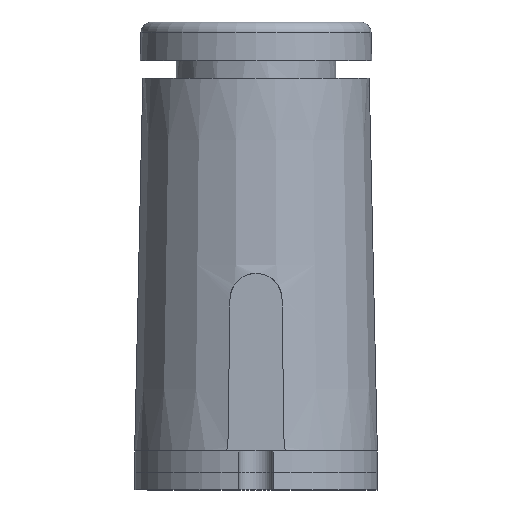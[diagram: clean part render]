
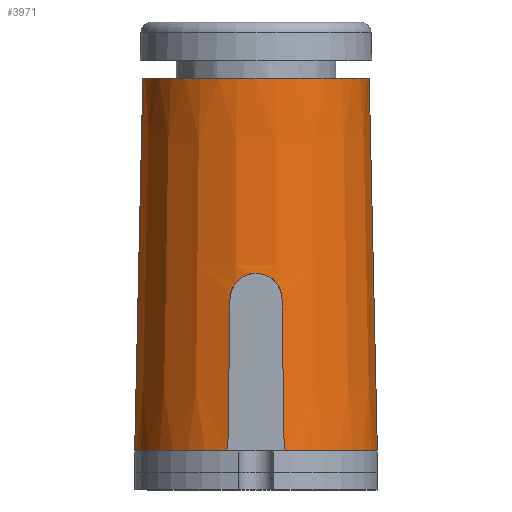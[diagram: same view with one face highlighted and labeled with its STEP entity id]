
A CAD part, left-side view. The second image highlights one B-rep face of the part: STEP entity #3971.
In plain terms, the highlighted conical face has half-angle 1.25 degrees and reference radius 44.45 mm.
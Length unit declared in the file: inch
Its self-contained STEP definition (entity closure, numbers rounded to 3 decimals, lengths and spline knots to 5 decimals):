
#52=(
BOUNDED_CURVE()
B_SPLINE_CURVE(2,(#7964,#7965,#7966),.UNSPECIFIED.,.F.,.F.)
B_SPLINE_CURVE_WITH_KNOTS((3,3),(0.,5.41489),.UNSPECIFIED.)
CURVE()
GEOMETRIC_REPRESENTATION_ITEM()
RATIONAL_B_SPLINE_CURVE((1.,1.,1.))
REPRESENTATION_ITEM('')
);
#53=(
BOUNDED_CURVE()
B_SPLINE_CURVE(2,(#8012,#8013,#8014),.UNSPECIFIED.,.F.,.F.)
B_SPLINE_CURVE_WITH_KNOTS((3,3),(0.,5.41489),.UNSPECIFIED.)
CURVE()
GEOMETRIC_REPRESENTATION_ITEM()
RATIONAL_B_SPLINE_CURVE((1.,1.,1.))
REPRESENTATION_ITEM('')
);
#87=CONICAL_SURFACE('',#4362,1.75,1.25);
#461=LINE('',#8217,#718);
#470=LINE('',#8242,#727);
#718=VECTOR('',#5249,5.35956);
#727=VECTOR('',#5284,5.35956);
#977=FACE_OUTER_BOUND('',#1224,.T.);
#1224=EDGE_LOOP('',(#3237,#3238,#3239,#3240,#3241,#3242,#3243,#3244,#3245,
#3246,#3247,#3248));
#1439=CIRCLE('',#4304,1.75);
#1457=CIRCLE('',#4355,1.63272);
#1459=CIRCLE('',#4363,1.75);
#1501=B_SPLINE_CURVE_WITH_KNOTS('',3,(#7974,#7975,#7976,#7977,#7978,#7979,
#7980,#7981,#7982,#7983),.UNSPECIFIED.,.F.,.F.,(4,2,2,2,4),(0.24589,
0.30631,0.36769,0.42782,0.48648),
 .UNSPECIFIED.);
#1502=B_SPLINE_CURVE_WITH_KNOTS('',3,(#7989,#7990,#7991,#7992,#7993,#7994,
#7995,#7996,#7997,#7998,#7999,#8000,#8001,#8002,#8003,#8004,#8005,#8006),
 .UNSPECIFIED.,.F.,.F.,(4,2,2,2,2,2,2,2,4),(0.009,0.35835,
0.7167,1.07553,1.43436,1.79319,2.15203,
2.51038,2.85973),.UNSPECIFIED.);
#1503=B_SPLINE_CURVE_WITH_KNOTS('',3,(#8020,#8021,#8022,#8023,#8024,#8025,
#8026,#8027,#8028,#8029),.UNSPECIFIED.,.F.,.F.,(4,2,2,2,4),(0.00146,
0.06013,0.12026,0.18164,0.24206),
 .UNSPECIFIED.);
#1505=B_SPLINE_CURVE_WITH_KNOTS('',3,(#8115,#8116,#8117,#8118,#8119,#8120,
#8121,#8122),.UNSPECIFIED.,.F.,.F.,(4,2,2,4),(0.31949,0.35845,
0.47794,0.4782),.UNSPECIFIED.);
#1507=B_SPLINE_CURVE_WITH_KNOTS('',3,(#8197,#8198,#8199,#8200,#8201,#8202,
#8203,#8204),.UNSPECIFIED.,.F.,.F.,(4,2,2,4),(1.4371,1.43736,
1.55685,1.59581),.UNSPECIFIED.);
#1767=VERTEX_POINT('',#7962);
#1768=VERTEX_POINT('',#7963);
#1771=VERTEX_POINT('',#7973);
#1773=VERTEX_POINT('',#7988);
#1775=VERTEX_POINT('',#8011);
#1777=VERTEX_POINT('',#8019);
#1780=VERTEX_POINT('',#8038);
#1803=VERTEX_POINT('',#8108);
#1805=VERTEX_POINT('',#8113);
#1828=VERTEX_POINT('',#8194);
#1829=VERTEX_POINT('',#8196);
#1832=VERTEX_POINT('',#8216);
#2229=EDGE_CURVE('',#1767,#1768,#52,.T.);
#2233=EDGE_CURVE('',#1771,#1767,#1501,.T.);
#2236=EDGE_CURVE('',#1768,#1773,#1502,.T.);
#2239=EDGE_CURVE('',#1773,#1775,#53,.T.);
#2242=EDGE_CURVE('',#1775,#1777,#1503,.T.);
#2247=EDGE_CURVE('',#1771,#1780,#1439,.T.);
#2281=EDGE_CURVE('',#1803,#1805,#1505,.T.);
#2315=EDGE_CURVE('',#1829,#1828,#1507,.T.);
#2322=EDGE_CURVE('',#1832,#1803,#461,.T.);
#2328=EDGE_CURVE('',#1829,#1805,#1457,.T.);
#2335=EDGE_CURVE('',#1832,#1777,#1459,.T.);
#2336=EDGE_CURVE('',#1780,#1828,#470,.T.);
#3237=ORIENTED_EDGE('',*,*,#2242,.T.);
#3238=ORIENTED_EDGE('',*,*,#2335,.F.);
#3239=ORIENTED_EDGE('',*,*,#2322,.T.);
#3240=ORIENTED_EDGE('',*,*,#2281,.T.);
#3241=ORIENTED_EDGE('',*,*,#2328,.F.);
#3242=ORIENTED_EDGE('',*,*,#2315,.T.);
#3243=ORIENTED_EDGE('',*,*,#2336,.F.);
#3244=ORIENTED_EDGE('',*,*,#2247,.F.);
#3245=ORIENTED_EDGE('',*,*,#2233,.T.);
#3246=ORIENTED_EDGE('',*,*,#2229,.T.);
#3247=ORIENTED_EDGE('',*,*,#2236,.T.);
#3248=ORIENTED_EDGE('',*,*,#2239,.T.);
#3971=ADVANCED_FACE('',(#977),#87,.T.);
#4304=AXIS2_PLACEMENT_3D('',#8039,#5108,#5109);
#4355=AXIS2_PLACEMENT_3D('',#8226,#5261,#5262);
#4362=AXIS2_PLACEMENT_3D('',#8240,#5280,#5281);
#4363=AXIS2_PLACEMENT_3D('',#8241,#5282,#5283);
#5108=DIRECTION('center_axis',(0.,0.,
-1.));
#5109=DIRECTION('ref_axis',(0.,-1.,0.));
#5249=DIRECTION('',(0.,0.022,1.));
#5261=DIRECTION('center_axis',(0.,0.,
1.));
#5262=DIRECTION('ref_axis',(0.,-1.,0.));
#5280=DIRECTION('center_axis',(0.,0.,
-1.));
#5281=DIRECTION('ref_axis',(0.,-1.,0.));
#5282=DIRECTION('center_axis',(0.,0.,
-1.));
#5283=DIRECTION('ref_axis',(0.,-1.,0.));
#5284=DIRECTION('',(0.,-0.022,1.));
#7962=CARTESIAN_POINT('',(-3.32602,0.40537,0.62411));
#7963=CARTESIAN_POINT('',(-3.28534,0.37496,2.75535));
#7964=CARTESIAN_POINT('Ctrl Pts',(-3.32602,0.40537,0.62411));
#7965=CARTESIAN_POINT('Ctrl Pts',(-3.3055,0.38998,1.70263));
#7966=CARTESIAN_POINT('Ctrl Pts',(-3.28534,0.37496,2.75535));
#7973=CARTESIAN_POINT('',(-3.3113,0.46786,0.5625));
#7974=CARTESIAN_POINT('Ctrl Pts',(-3.3113,0.46786,0.5625));
#7975=CARTESIAN_POINT('Ctrl Pts',(-3.31342,0.46021,0.5625));
#7976=CARTESIAN_POINT('Ctrl Pts',(-3.3156,0.45201,0.56399));
#7977=CARTESIAN_POINT('Ctrl Pts',(-3.31949,0.43668,0.5702));
#7978=CARTESIAN_POINT('Ctrl Pts',(-3.32119,0.42957,0.57497));
#7979=CARTESIAN_POINT('Ctrl Pts',(-3.32373,0.41837,0.58604));
#7980=CARTESIAN_POINT('Ctrl Pts',(-3.32476,0.41352,0.59302));
#7981=CARTESIAN_POINT('Ctrl Pts',(-3.32596,0.40711,0.60821));
#7982=CARTESIAN_POINT('Ctrl Pts',(-3.32617,0.40548,0.61639));
#7983=CARTESIAN_POINT('Ctrl Pts',(-3.32602,0.40537,0.62411));
#7988=CARTESIAN_POINT('',(-3.28534,-0.37496,2.75535));
#7989=CARTESIAN_POINT('Ctrl Pts',(-3.28534,0.37496,2.75535));
#7990=CARTESIAN_POINT('Ctrl Pts',(-3.28446,0.37431,2.80133));
#7991=CARTESIAN_POINT('Ctrl Pts',(-3.28562,0.36466,2.85003));
#7992=CARTESIAN_POINT('Ctrl Pts',(-3.2915,0.32666,2.94079));
#7993=CARTESIAN_POINT('Ctrl Pts',(-3.2962,0.2978,2.98266));
#7994=CARTESIAN_POINT('Ctrl Pts',(-3.30522,0.23143,3.04877));
#7995=CARTESIAN_POINT('Ctrl Pts',(-3.31014,0.18941,3.07747));
#7996=CARTESIAN_POINT('Ctrl Pts',(-3.31713,0.09724,
3.11559));
#7997=CARTESIAN_POINT('Ctrl Pts',(-3.31909,0.04709,
3.125));
#7998=CARTESIAN_POINT('Ctrl Pts',(-3.31909,-0.04709,
3.125));
#7999=CARTESIAN_POINT('Ctrl Pts',(-3.31713,-0.09724,
3.11559));
#8000=CARTESIAN_POINT('Ctrl Pts',(-3.31014,-0.18941,
3.07747));
#8001=CARTESIAN_POINT('Ctrl Pts',(-3.30522,-0.23143,
3.04877));
#8002=CARTESIAN_POINT('Ctrl Pts',(-3.2962,-0.2978,
2.98266));
#8003=CARTESIAN_POINT('Ctrl Pts',(-3.2915,-0.32666,
2.94079));
#8004=CARTESIAN_POINT('Ctrl Pts',(-3.28562,-0.36466,
2.85003));
#8005=CARTESIAN_POINT('Ctrl Pts',(-3.28446,-0.37431,
2.80133));
#8006=CARTESIAN_POINT('Ctrl Pts',(-3.28534,-0.37496,
2.75535));
#8011=CARTESIAN_POINT('',(-3.32602,-0.40537,0.62411));
#8012=CARTESIAN_POINT('Ctrl Pts',(-3.28534,-0.37496,
2.75535));
#8013=CARTESIAN_POINT('Ctrl Pts',(-3.3055,-0.38998,
1.70263));
#8014=CARTESIAN_POINT('Ctrl Pts',(-3.32602,-0.40537,
0.62411));
#8019=CARTESIAN_POINT('',(-3.3113,-0.46786,0.5625));
#8020=CARTESIAN_POINT('Ctrl Pts',(-3.32602,-0.40537,
0.62411));
#8021=CARTESIAN_POINT('Ctrl Pts',(-3.32617,-0.40548,
0.61639));
#8022=CARTESIAN_POINT('Ctrl Pts',(-3.32596,-0.40711,
0.60821));
#8023=CARTESIAN_POINT('Ctrl Pts',(-3.32476,-0.41352,
0.59302));
#8024=CARTESIAN_POINT('Ctrl Pts',(-3.32373,-0.41837,0.58604));
#8025=CARTESIAN_POINT('Ctrl Pts',(-3.32119,-0.42957,
0.57497));
#8026=CARTESIAN_POINT('Ctrl Pts',(-3.31949,-0.43668,
0.5702));
#8027=CARTESIAN_POINT('Ctrl Pts',(-3.3156,-0.45201,0.56399));
#8028=CARTESIAN_POINT('Ctrl Pts',(-3.31342,-0.46021,
0.5625));
#8029=CARTESIAN_POINT('Ctrl Pts',(-3.3113,-0.46786,0.5625));
#8038=CARTESIAN_POINT('',(-1.625,1.75,0.5625));
#8039=CARTESIAN_POINT('Origin',(-1.625,0.,0.5625));
#8108=CARTESIAN_POINT('',(-1.625,-1.63308,5.92078));
#8113=CARTESIAN_POINT('',(-1.68745,-1.63152,5.9375));
#8115=CARTESIAN_POINT('Ctrl Pts',(-1.625,-1.63308,5.92078));
#8116=CARTESIAN_POINT('Ctrl Pts',(-1.62968,-1.63302,5.92348));
#8117=CARTESIAN_POINT('Ctrl Pts',(-1.63456,-1.63295,5.92589));
#8118=CARTESIAN_POINT('Ctrl Pts',(-1.65495,-1.63258,5.93435));
#8119=CARTESIAN_POINT('Ctrl Pts',(-1.67167,-1.63213,5.93749));
#8120=CARTESIAN_POINT('Ctrl Pts',(-1.68738,-1.63153,5.9375));
#8121=CARTESIAN_POINT('Ctrl Pts',(-1.68741,-1.63152,5.9375));
#8122=CARTESIAN_POINT('Ctrl Pts',(-1.68745,-1.63152,5.9375));
#8194=CARTESIAN_POINT('',(-1.625,1.63308,5.92078));
#8196=CARTESIAN_POINT('',(-1.68745,1.63152,5.9375));
#8197=CARTESIAN_POINT('Ctrl Pts',(-1.68745,1.63152,5.9375));
#8198=CARTESIAN_POINT('Ctrl Pts',(-1.68741,1.63152,5.9375));
#8199=CARTESIAN_POINT('Ctrl Pts',(-1.68738,1.63153,5.9375));
#8200=CARTESIAN_POINT('Ctrl Pts',(-1.67167,1.63213,5.93749));
#8201=CARTESIAN_POINT('Ctrl Pts',(-1.65495,1.63258,5.93435));
#8202=CARTESIAN_POINT('Ctrl Pts',(-1.63456,1.63295,5.92589));
#8203=CARTESIAN_POINT('Ctrl Pts',(-1.62968,1.63302,5.92348));
#8204=CARTESIAN_POINT('Ctrl Pts',(-1.625,1.63308,5.92078));
#8216=CARTESIAN_POINT('',(-1.625,-1.75,0.5625));
#8217=CARTESIAN_POINT('',(-1.625,-1.75,0.5625));
#8226=CARTESIAN_POINT('Origin',(-1.625,0.,5.9375));
#8240=CARTESIAN_POINT('Origin',(-1.625,0.,0.5625));
#8241=CARTESIAN_POINT('Origin',(-1.625,0.,0.5625));
#8242=CARTESIAN_POINT('',(-1.625,1.75,0.5625));
